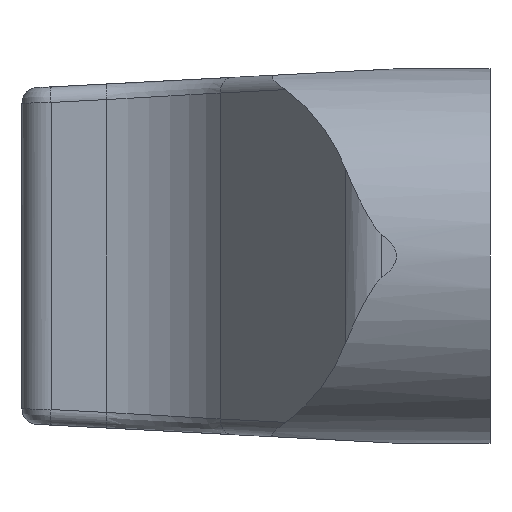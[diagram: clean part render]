
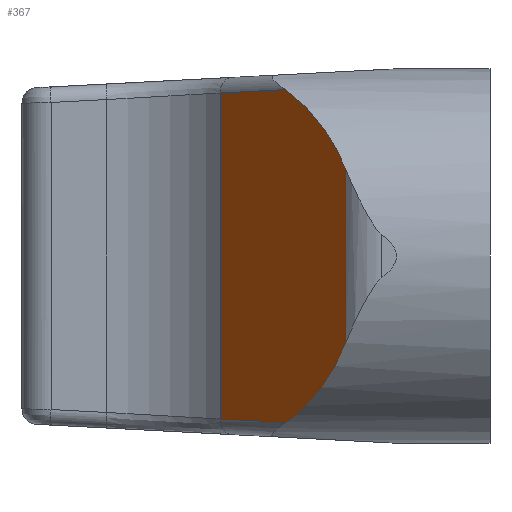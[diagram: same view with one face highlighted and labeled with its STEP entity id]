
A CAD part, left-side view. The second image highlights one B-rep face of the part: STEP entity #367.
In plain terms, the highlighted planar face has unit normal (-0.602, 0.798, 0).
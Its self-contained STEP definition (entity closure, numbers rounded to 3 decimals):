
#79 = VECTOR ( 'NONE', #353, 1000. ) ;
#86 = CARTESIAN_POINT ( 'NONE',  ( 12.05, 11.302, 12. ) ) ;
#210 = LINE ( 'NONE', #3763, #79 ) ;
#305 = CARTESIAN_POINT ( 'NONE',  ( 2.516, 4.113, 7.764 ) ) ;
#310 = CARTESIAN_POINT ( 'NONE',  ( 12.05, 11.302, -10.448 ) ) ;
#353 = DIRECTION ( 'NONE',  ( 0., 0., -1. ) ) ;
#367 = ADVANCED_FACE ( 'NONE', ( #3508 ), #1033, .F. ) ;
#425 = VERTEX_POINT ( 'NONE', #2369 ) ;
#503 = EDGE_CURVE ( 'NONE', #4124, #4964, #694, .T. ) ;
#694 = LINE ( 'NONE', #1550, #3973 ) ;
#726 = CARTESIAN_POINT ( 'NONE',  ( 6.504, 7.12, -10.667 ) ) ;
#1033 = PLANE ( 'NONE',  #5500 ) ;
#1055 = DIRECTION ( 'NONE',  ( 0.602, -0.798, 0. ) ) ;
#1338 = DIRECTION ( 'NONE',  ( 0.798, 0.602, 0.032 ) ) ;
#1359 = CARTESIAN_POINT ( 'NONE',  ( 6.504, 7.12, -10.667 ) ) ;
#1378 = CARTESIAN_POINT ( 'NONE',  ( 12.05, 11.302, 10.448 ) ) ;
#1492 = ORIENTED_EDGE ( 'NONE', *, *, #503, .F. ) ;
#1550 = CARTESIAN_POINT ( 'NONE',  ( 12.026, 11.284, 10.449 ) ) ;
#1571 = CARTESIAN_POINT ( 'NONE',  ( 4.285, 5.447, 9.524 ) ) ;
#1750 = CARTESIAN_POINT ( 'NONE',  ( 8.684, 8.764, -10.581 ) ) ;
#2001 = CARTESIAN_POINT ( 'NONE',  ( 1.361, 3.242, -5.551 ) ) ;
#2288 = CARTESIAN_POINT ( 'NONE',  ( 1.361, 3.242, 5.551 ) ) ;
#2297 = EDGE_CURVE ( 'NONE', #4964, #5105, #3438, .T. ) ;
#2369 = CARTESIAN_POINT ( 'NONE',  ( 1.361, 3.242, -5.551 ) ) ;
#2452 = EDGE_LOOP ( 'NONE', ( #3524, #5308, #3243, #5384, #4556, #1492 ) ) ;
#2748 = LINE ( 'NONE', #86, #5010 ) ;
#2994 =( BOUNDED_CURVE ( )  B_SPLINE_CURVE ( 3, ( #2001, #4559, #3288, #726 ),
 .UNSPECIFIED., .F., .T. ) 
 B_SPLINE_CURVE_WITH_KNOTS ( ( 4, 4 ),
 ( 0.481, 1.095 ),
 .UNSPECIFIED. ) 
 CURVE ( )  GEOMETRIC_REPRESENTATION_ITEM ( )  RATIONAL_B_SPLINE_CURVE ( ( 1., 0.969, 0.969, 1. ) ) 
 REPRESENTATION_ITEM ( '' )  );
#3034 = DIRECTION ( 'NONE',  ( 0., 0., -1. ) ) ;
#3243 = ORIENTED_EDGE ( 'NONE', *, *, #3799, .F. ) ;
#3273 = VECTOR ( 'NONE', #1338, 1000. ) ;
#3288 = CARTESIAN_POINT ( 'NONE',  ( 4.285, 5.447, -9.524 ) ) ;
#3292 = CARTESIAN_POINT ( 'NONE',  ( 1.361, 3.242, 5.551 ) ) ;
#3438 =( BOUNDED_CURVE ( )  B_SPLINE_CURVE ( 3, ( #4944, #1571, #305, #3292 ),
 .UNSPECIFIED., .F., .T. ) 
 B_SPLINE_CURVE_WITH_KNOTS ( ( 4, 4 ),
 ( 5.188, 5.802 ),
 .UNSPECIFIED. ) 
 CURVE ( )  GEOMETRIC_REPRESENTATION_ITEM ( )  RATIONAL_B_SPLINE_CURVE ( ( 1., 0.969, 0.969, 1. ) ) 
 REPRESENTATION_ITEM ( '' )  );
#3508 = FACE_OUTER_BOUND ( 'NONE', #2452, .T. ) ;
#3524 = ORIENTED_EDGE ( 'NONE', *, *, #3654, .T. ) ;
#3612 = CARTESIAN_POINT ( 'NONE',  ( 12.05, 11.302, 12. ) ) ;
#3654 = EDGE_CURVE ( 'NONE', #4124, #4578, #2748, .T. ) ;
#3763 = CARTESIAN_POINT ( 'NONE',  ( 1.361, 3.242, 12. ) ) ;
#3799 = EDGE_CURVE ( 'NONE', #425, #4526, #2994, .T. ) ;
#3973 = VECTOR ( 'NONE', #4543, 1000. ) ;
#3980 = EDGE_CURVE ( 'NONE', #5105, #425, #210, .T. ) ;
#4037 = DIRECTION ( 'NONE',  ( 0.798, 0.602, 0. ) ) ;
#4124 = VERTEX_POINT ( 'NONE', #1378 ) ;
#4414 = EDGE_CURVE ( 'NONE', #4526, #4578, #4546, .T. ) ;
#4526 = VERTEX_POINT ( 'NONE', #1359 ) ;
#4543 = DIRECTION ( 'NONE',  ( -0.798, -0.602, 0.032 ) ) ;
#4546 = LINE ( 'NONE', #1750, #3273 ) ;
#4556 = ORIENTED_EDGE ( 'NONE', *, *, #2297, .F. ) ;
#4559 = CARTESIAN_POINT ( 'NONE',  ( 2.516, 4.113, -7.764 ) ) ;
#4578 = VERTEX_POINT ( 'NONE', #310 ) ;
#4944 = CARTESIAN_POINT ( 'NONE',  ( 6.504, 7.12, 10.667 ) ) ;
#4964 = VERTEX_POINT ( 'NONE', #5489 ) ;
#5010 = VECTOR ( 'NONE', #3034, 1000. ) ;
#5105 = VERTEX_POINT ( 'NONE', #2288 ) ;
#5308 = ORIENTED_EDGE ( 'NONE', *, *, #4414, .F. ) ;
#5384 = ORIENTED_EDGE ( 'NONE', *, *, #3980, .F. ) ;
#5489 = CARTESIAN_POINT ( 'NONE',  ( 6.504, 7.12, 10.667 ) ) ;
#5500 = AXIS2_PLACEMENT_3D ( 'NONE', #3612, #1055, #4037 ) ;
